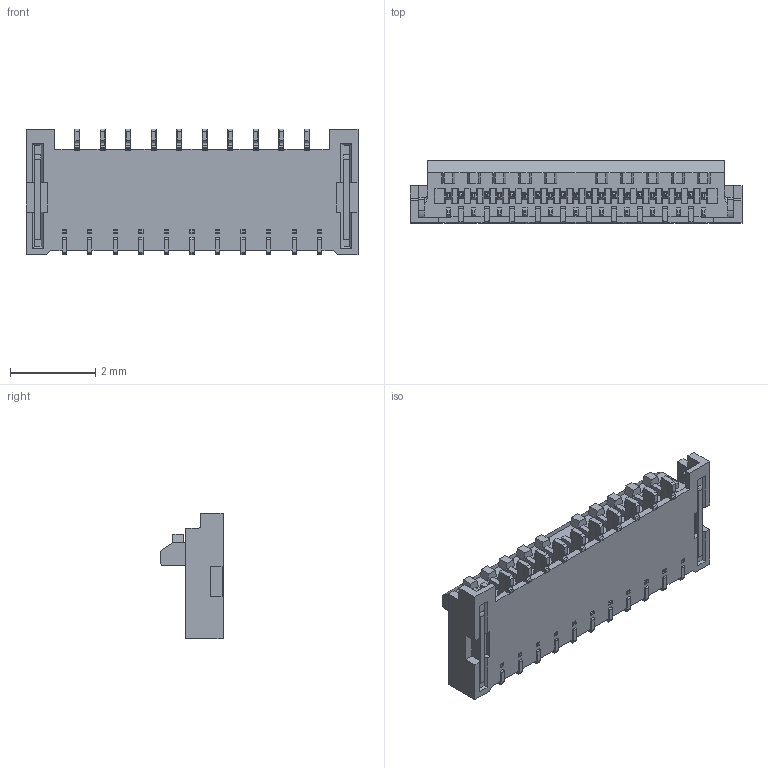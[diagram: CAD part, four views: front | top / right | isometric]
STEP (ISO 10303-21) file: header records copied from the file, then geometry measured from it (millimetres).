
FILE_DESCRIPTION (( 'STEP AP203' ), '1' );
FILE_NAME ('20613-021E-02C MINIFLEX 3-BFNH ACT OPEN STEP R6 ALL.STEP', '2024-09-12T06:57:49', ( '' ), ( '' ), 'SwSTEP 2.0', 'SolidWorks 2023', '' );
FILE_SCHEMA (( 'CONFIG_CONTROL_DESIGN' ));
Length unit declared in the file: millimetre
Products named in the file (1): 20613-021E-02C MINIFLEX 3-BFNH ACT OPEN STEP R6 ALL
Bounding box: 7.8 x 1.5 x 2.95 mm (x, y, z)
Volume: 17.5 mm3; surface area: 84.1 mm2
Topology: 1 solids, 1 shells, 1066 faces, 3014 edges, 2000 vertices
Faces by surface type: plane 862, cylinder 202, torus 2
Entity records: 34123 total; most frequent: CARTESIAN_POINT 6645, ORIENTED_EDGE 6028, DIRECTION 5262, EDGE_CURVE 3014, VECTOR 2524, LINE 2524, VERTEX_POINT 2000, AXIS2_PLACEMENT_3D 1369
